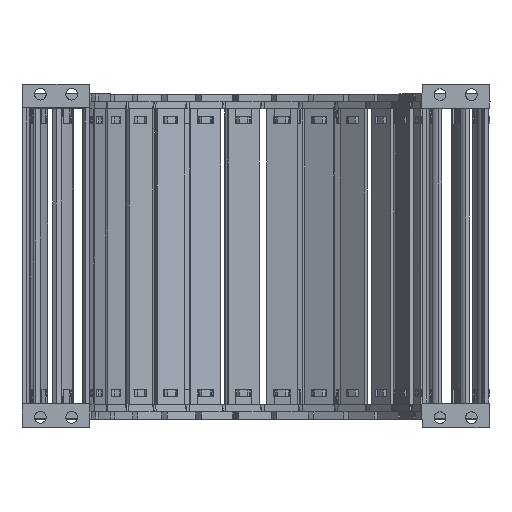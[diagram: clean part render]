
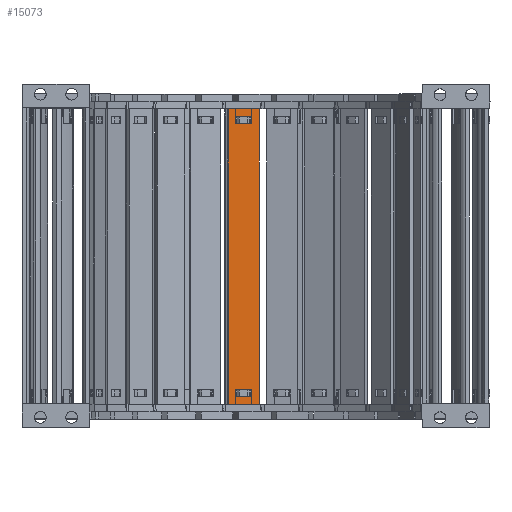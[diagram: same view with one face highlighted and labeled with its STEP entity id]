
A CAD part, top view. The second image highlights one B-rep face of the part: STEP entity #15073.
In plain terms, the highlighted planar face has unit normal (0.048, 0, 0.999).
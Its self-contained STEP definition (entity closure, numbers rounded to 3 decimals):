
#162=FACE_BOUND('',#30481,.T.);
#163=FACE_BOUND('',#30482,.T.);
#164=FACE_BOUND('',#30483,.T.);
#8711=PLANE('',#146224);
#15073=ADVANCED_FACE('',(#162,#163,#164),#8711,.F.);
#30481=EDGE_LOOP('',(#63649,#63650,#63651,#63652));
#30482=EDGE_LOOP('',(#63653,#63654,#63655,#63656));
#30483=EDGE_LOOP('',(#63657,#63658,#63659,#63660));
#63649=ORIENTED_EDGE('',*,*,#104155,.F.);
#63650=ORIENTED_EDGE('',*,*,#104126,.F.);
#63651=ORIENTED_EDGE('',*,*,#104160,.F.);
#63652=ORIENTED_EDGE('',*,*,#104137,.F.);
#63653=ORIENTED_EDGE('',*,*,#104172,.F.);
#63654=ORIENTED_EDGE('',*,*,#104165,.F.);
#63655=ORIENTED_EDGE('',*,*,#104204,.F.);
#63656=ORIENTED_EDGE('',*,*,#104179,.T.);
#63657=ORIENTED_EDGE('',*,*,#104202,.T.);
#63658=ORIENTED_EDGE('',*,*,#104205,.F.);
#63659=ORIENTED_EDGE('',*,*,#104206,.F.);
#63660=ORIENTED_EDGE('',*,*,#104207,.F.);
#86184=VERTEX_POINT('',#224477);
#86185=VERTEX_POINT('',#224479);
#86191=VERTEX_POINT('',#224494);
#86194=VERTEX_POINT('',#224500);
#86211=VERTEX_POINT('',#224557);
#86212=VERTEX_POINT('',#224558);
#86218=VERTEX_POINT('',#224572);
#86221=VERTEX_POINT('',#224580);
#86234=VERTEX_POINT('',#224627);
#86235=VERTEX_POINT('',#224629);
#86236=VERTEX_POINT('',#224634);
#86237=VERTEX_POINT('',#224636);
#104126=EDGE_CURVE('',#86184,#86185,#119852,.T.);
#104137=EDGE_CURVE('',#86194,#86191,#119863,.T.);
#104155=EDGE_CURVE('',#86185,#86194,#119878,.T.);
#104160=EDGE_CURVE('',#86191,#86184,#119883,.T.);
#104165=EDGE_CURVE('',#86211,#86212,#119888,.T.);
#104172=EDGE_CURVE('',#86212,#86218,#119895,.T.);
#104179=EDGE_CURVE('',#86221,#86218,#119902,.T.);
#104202=EDGE_CURVE('',#86235,#86234,#119916,.T.);
#104204=EDGE_CURVE('',#86221,#86211,#119918,.T.);
#104205=EDGE_CURVE('',#86236,#86234,#119919,.T.);
#104206=EDGE_CURVE('',#86237,#86236,#119920,.T.);
#104207=EDGE_CURVE('',#86235,#86237,#119921,.T.);
#119852=LINE('',#224478,#133314);
#119863=LINE('',#224501,#133325);
#119878=LINE('',#224536,#133340);
#119883=LINE('',#224545,#133345);
#119888=LINE('',#224556,#133350);
#119895=LINE('',#224571,#133357);
#119902=LINE('',#224584,#133364);
#119916=LINE('',#224628,#133378);
#119918=LINE('',#224632,#133380);
#119919=LINE('',#224633,#133381);
#119920=LINE('',#224635,#133382);
#119921=LINE('',#224637,#133383);
#133314=VECTOR('',#175489,1.);
#133325=VECTOR('',#175504,1.);
#133340=VECTOR('',#175539,1.);
#133345=VECTOR('',#175548,1.);
#133350=VECTOR('',#175557,1.);
#133357=VECTOR('',#175566,1.);
#133364=VECTOR('',#175575,1.);
#133378=VECTOR('',#175625,1.);
#133380=VECTOR('',#175629,1.);
#133381=VECTOR('',#175630,1.);
#133382=VECTOR('',#175631,1.);
#133383=VECTOR('',#175632,1.);
#146224=AXIS2_PLACEMENT_3D('',#224638,#175633,#175634);
#175489=DIRECTION('',(0.999,0.,-0.048));
#175504=DIRECTION('',(-0.999,0.,0.048));
#175539=DIRECTION('',(0.,1.,0.));
#175548=DIRECTION('',(0.,-1.,0.));
#175557=DIRECTION('',(-0.999,0.,0.048));
#175566=DIRECTION('',(0.,-1.,0.));
#175575=DIRECTION('',(-0.999,0.,0.048));
#175625=DIRECTION('',(0.,-1.,0.));
#175629=DIRECTION('',(0.,1.,0.));
#175630=DIRECTION('',(-0.999,0.,0.048));
#175631=DIRECTION('',(0.,-1.,0.));
#175632=DIRECTION('',(0.999,0.,-0.048));
#175633=DIRECTION('',(-0.048,0.,-0.999));
#175634=DIRECTION('',(-0.999,0.,0.048));
#224477=CARTESIAN_POINT('',(-112.088,-146.53,-104.598));
#224478=CARTESIAN_POINT('',(-112.088,-146.53,-104.598));
#224479=CARTESIAN_POINT('',(-103.947,-146.53,-104.989));
#224494=CARTESIAN_POINT('',(-112.088,-142.882,-104.598));
#224500=CARTESIAN_POINT('',(-103.947,-142.882,-104.989));
#224501=CARTESIAN_POINT('',(-103.947,-142.882,-104.989));
#224536=CARTESIAN_POINT('',(-103.947,-177.96,-104.989));
#224545=CARTESIAN_POINT('',(-112.088,-174.36,-104.598));
#224556=CARTESIAN_POINT('',(-103.947,-3.97,-104.989));
#224557=CARTESIAN_POINT('',(-103.947,-3.97,-104.989));
#224558=CARTESIAN_POINT('',(-112.088,-3.97,-104.598));
#224571=CARTESIAN_POINT('',(-112.088,-3.97,-104.598));
#224572=CARTESIAN_POINT('',(-112.088,-7.618,-104.598));
#224580=CARTESIAN_POINT('',(-103.947,-7.618,-104.989));
#224584=CARTESIAN_POINT('',(-103.947,-7.618,-104.989));
#224627=CARTESIAN_POINT('',(-115.908,-150.5,-104.414));
#224628=CARTESIAN_POINT('',(-115.908,0.,-104.414));
#224629=CARTESIAN_POINT('',(-115.908,0.,-104.414));
#224632=CARTESIAN_POINT('',(-103.947,-7.618,-104.989));
#224633=CARTESIAN_POINT('',(-100.127,-150.5,-105.172));
#224634=CARTESIAN_POINT('',(-100.127,-150.5,-105.172));
#224635=CARTESIAN_POINT('',(-100.127,0.,-105.172));
#224636=CARTESIAN_POINT('',(-100.127,0.,-105.172));
#224637=CARTESIAN_POINT('',(-115.908,0.,-104.414));
#224638=CARTESIAN_POINT('',(-97.969,31.74,-105.276));
